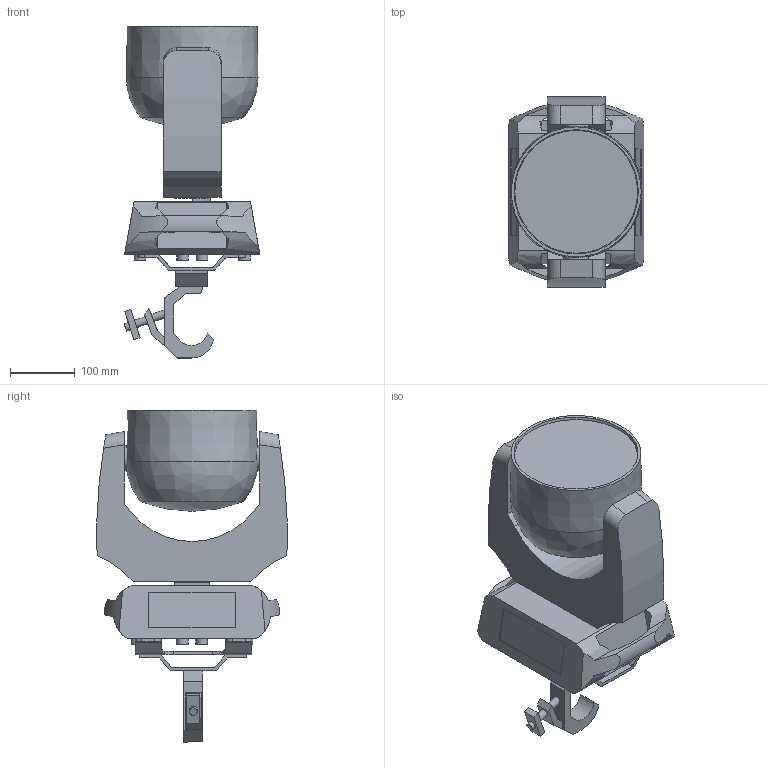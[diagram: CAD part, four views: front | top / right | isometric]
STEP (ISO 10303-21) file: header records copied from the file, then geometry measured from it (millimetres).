
FILE_DESCRIPTION( ( 'Unknown' ), '1' );
FILE_NAME( 'K:/ROBE-LED/19 Robin 300 LED Wash/09 2D_3D symbol/ 3D_Robin300LW_00.stp', 'Unknown', ( '*' ), ( '*' ), 'PSStep 15.0.49', 'SolidEdge', ' ' );
FILE_SCHEMA( ( 'AUTOMOTIVE_DESIGN { 1 0 10303 214 1 1 1 1 }' ) );
Length unit declared in the file: millimetre
Products named in the file (8): Omega_SlimClamp_90; Omega+SlimClamp; Clamp Doughty Slimline QT; Assem1; Základna300; Rameno300; Hlava300; 11013760 upínací adapter LW
Assembly tree (7 placements, depth 3):
  Assem1
    Základna300
    Rameno300
    Hlava300
    11013760 upínací adapter LW
    Omega_SlimClamp_90
      Omega+SlimClamp
      Clamp Doughty Slimline QT
Bounding box: 210 x 294.16 x 513.34 mm (x, y, z)
Volume: 11158613.8 mm3; surface area: 603465 mm2
Topology: 6 solids, 6 shells, 215 faces, 563 edges, 371 vertices
Faces by surface type: plane 123, cylinder 78, extrusion 6, bspline 5, cone 2, sphere 1
Full cylindrical faces by diameter (mm): 11 x6, 12 x4, 13 x6, 18 x4, 35 x1, 38 x2, 55 x1
Entity records: 9213 total; most frequent: CARTESIAN_POINT 2150, DIRECTION 1056, ORIENTED_EDGE 1048, EDGE_CURVE 524, AXIS2_PLACEMENT_3D 365, VERTEX_POINT 361, VECTOR 326, LINE 320
